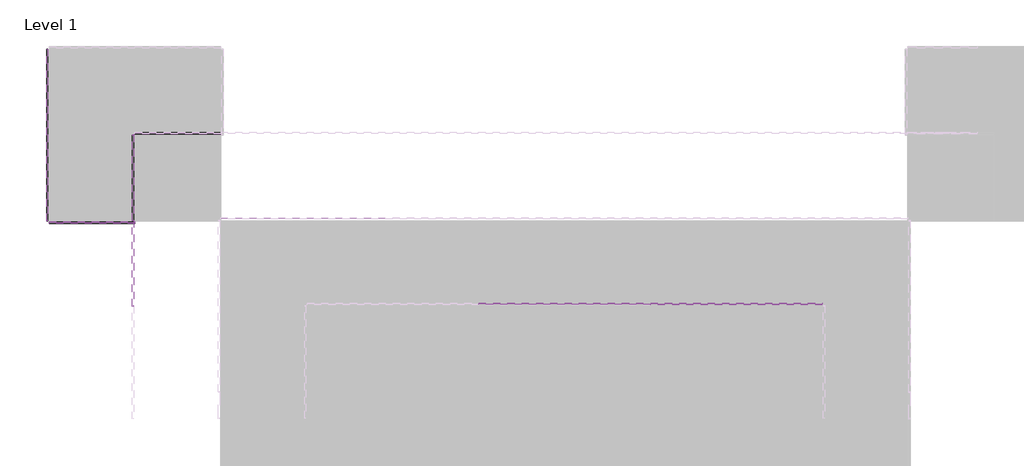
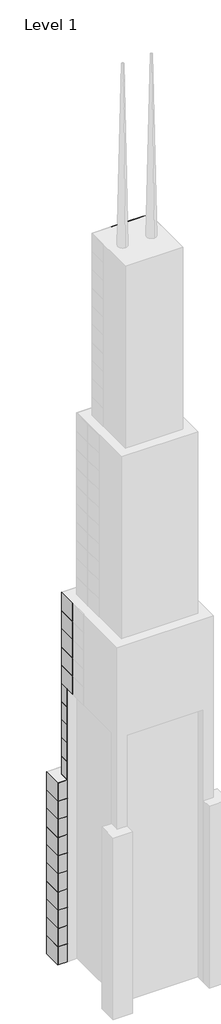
# One storey, part 12 of 15: 138 plates.
"""IFC4 building model written with IfcOpenShell, lengths in millimetres."""

from ifc_helpers import new_model, si_unit, origin, place, context, project, spatial, transform, mapped, element, save
from components import system_panel_glazed_9c75bc08, system_panel_glazed_0a0842ec, system_panel_glazed_aa64d645

model = new_model("IFC4")

# Units and contexts
model_context = context("Model", 3, world=origin())
ifc_project = project(units=[si_unit("LENGTHUNIT", "METRE", prefix="MILLI")], contexts=[model_context])

# Site, building, storey
site = spatial("IfcSite", under=ifc_project)
building = spatial("IfcBuilding", under=site)
storey = spatial("IfcBuildingStorey", under=building, Name="Level 1", Elevation=0.0)

# Plates
placement = place(None, origin())
system_panel_glazed_shape = system_panel_glazed_9c75bc08(model_context)
element("IfcPlate", 1, ObjectType="System Panel : Glazed", at=placement, inside=storey, context=model_context, shape_type="MappedRepresentation", body=[
    mapped(system_panel_glazed_shape, transform((36594.2903978, 9113.0904402, 0.0), x_axis=(0.0, -1.0, 0.0), y_axis=(1.0, 0.0, 0.0), z_axis=(0.0, 0.0, 1.0))),
])
element("IfcPlate", 2, ObjectType="System Panel : Glazed", at=placement, inside=storey, context=model_context, shape_type="MappedRepresentation", body=[
    mapped(system_panel_glazed_shape, transform((36594.2903978, 9113.0904402, 3048.0), x_axis=(0.0, -1.0, 0.0), y_axis=(1.0, 0.0, 0.0), z_axis=(0.0, 0.0, 1.0))),
])
element("IfcPlate", 3, ObjectType="System Panel : Glazed", at=placement, inside=storey, context=model_context, shape_type="MappedRepresentation", body=[
    mapped(system_panel_glazed_shape, transform((36594.2903978, 9113.0904402, 6096.0), x_axis=(0.0, -1.0, 0.0), y_axis=(1.0, 0.0, 0.0), z_axis=(0.0, 0.0, 1.0))),
])
element("IfcPlate", 4, ObjectType="System Panel : Glazed", at=placement, inside=storey, context=model_context, shape_type="MappedRepresentation", body=[
    mapped(system_panel_glazed_shape, transform((36594.2903978, 9113.0904402, 9144.0), x_axis=(0.0, -1.0, 0.0), y_axis=(1.0, 0.0, 0.0), z_axis=(0.0, 0.0, 1.0))),
])
element("IfcPlate", 5, ObjectType="System Panel : Glazed", at=placement, inside=storey, context=model_context, shape_type="MappedRepresentation", body=[
    mapped(system_panel_glazed_shape, transform((36594.2903978, 9113.0904402, 12192.0), x_axis=(0.0, -1.0, 0.0), y_axis=(1.0, 0.0, 0.0), z_axis=(0.0, 0.0, 1.0))),
])
element("IfcPlate", 6, ObjectType="System Panel : Glazed", at=placement, inside=storey, context=model_context, shape_type="MappedRepresentation", body=[
    mapped(system_panel_glazed_shape, transform((36594.2903978, 9113.0904402, 15240.0), x_axis=(0.0, -1.0, 0.0), y_axis=(1.0, 0.0, 0.0), z_axis=(0.0, 0.0, 1.0))),
])
element("IfcPlate", 7, ObjectType="System Panel : Glazed", at=placement, inside=storey, context=model_context, shape_type="MappedRepresentation", body=[
    mapped(system_panel_glazed_shape, transform((36594.2903978, 9113.0904402, 18288.0), x_axis=(0.0, -1.0, 0.0), y_axis=(1.0, 0.0, 0.0), z_axis=(0.0, 0.0, 1.0))),
])
element("IfcPlate", 8, ObjectType="System Panel : Glazed", at=placement, inside=storey, context=model_context, shape_type="MappedRepresentation", body=[
    mapped(system_panel_glazed_shape, transform((36594.2903978, 9113.0904402, 21336.0), x_axis=(0.0, -1.0, 0.0), y_axis=(1.0, 0.0, 0.0), z_axis=(0.0, 0.0, 1.0))),
])
element("IfcPlate", 9, ObjectType="System Panel : Glazed", at=placement, inside=storey, context=model_context, shape_type="MappedRepresentation", body=[
    mapped(system_panel_glazed_shape, transform((36594.2903978, 9113.0904402, 24384.0), x_axis=(0.0, -1.0, 0.0), y_axis=(1.0, 0.0, 0.0), z_axis=(0.0, 0.0, 1.0))),
])
element("IfcPlate", 10, ObjectType="System Panel : Glazed", at=placement, inside=storey, context=model_context, shape_type="MappedRepresentation", body=[
    mapped(system_panel_glazed_shape, transform((36594.2903978, 9113.0904402, 27432.0), x_axis=(0.0, -1.0, 0.0), y_axis=(1.0, 0.0, 0.0), z_axis=(0.0, 0.0, 1.0))),
])
element("IfcPlate", 11, ObjectType="System Panel : Glazed", at=placement, inside=storey, context=model_context, shape_type="MappedRepresentation", body=[
    mapped(system_panel_glazed_shape, transform((36594.2903978, 9113.0904402, 30480.0), x_axis=(0.0, -1.0, 0.0), y_axis=(1.0, 0.0, 0.0), z_axis=(0.0, 0.0, 1.0))),
])
element("IfcPlate", 12, ObjectType="System Panel : Glazed", at=placement, inside=storey, context=model_context, shape_type="MappedRepresentation", body=[
    mapped(system_panel_glazed_shape, transform((36594.2903978, 9113.0904402, 33528.0), x_axis=(0.0, -1.0, 0.0), y_axis=(1.0, 0.0, 0.0), z_axis=(0.0, 0.0, 1.0))),
])
element("IfcPlate", 13, ObjectType="System Panel : Glazed", at=placement, inside=storey, context=model_context, shape_type="MappedRepresentation", body=[
    mapped(system_panel_glazed_shape, transform((36594.2903978, 9113.0904402, 36576.0), x_axis=(0.0, -1.0, 0.0), y_axis=(1.0, 0.0, 0.0), z_axis=(0.0, 0.0, 1.0))),
])
element("IfcPlate", 14, ObjectType="System Panel : Glazed", at=placement, inside=storey, context=model_context, shape_type="MappedRepresentation", body=[
    mapped(system_panel_glazed_shape, transform((36594.2903978, 9113.0904402, 39624.0), x_axis=(0.0, -1.0, 0.0), y_axis=(1.0, 0.0, 0.0), z_axis=(0.0, 0.0, 1.0))),
])
element("IfcPlate", 15, ObjectType="System Panel : Glazed", at=placement, inside=storey, context=model_context, shape_type="MappedRepresentation", body=[
    mapped(system_panel_glazed_shape, transform((36594.2903978, 9113.0904402, 42672.0), x_axis=(0.0, -1.0, 0.0), y_axis=(1.0, 0.0, 0.0), z_axis=(0.0, 0.0, 1.0))),
])
element("IfcPlate", 16, ObjectType="System Panel : Glazed", at=placement, inside=storey, context=model_context, shape_type="MappedRepresentation", body=[
    mapped(system_panel_glazed_shape, transform((37356.2903978, 9875.0904402, 0.0), x_axis=(-1.0, 0.0, 0.0), y_axis=(0.0, -1.0, 0.0), z_axis=(0.0, 0.0, 1.0))),
])
element("IfcPlate", 17, ObjectType="System Panel : Glazed", at=placement, inside=storey, context=model_context, shape_type="MappedRepresentation", body=[
    mapped(system_panel_glazed_shape, transform((37356.2903978, 9875.0904402, 3048.0), x_axis=(-1.0, 0.0, 0.0), y_axis=(0.0, -1.0, 0.0), z_axis=(0.0, 0.0, 1.0))),
])
element("IfcPlate", 18, ObjectType="System Panel : Glazed", at=placement, inside=storey, context=model_context, shape_type="MappedRepresentation", body=[
    mapped(system_panel_glazed_shape, transform((37356.2903978, 9875.0904402, 6096.0), x_axis=(-1.0, 0.0, 0.0), y_axis=(0.0, -1.0, 0.0), z_axis=(0.0, 0.0, 1.0))),
])
element("IfcPlate", 19, ObjectType="System Panel : Glazed", at=placement, inside=storey, context=model_context, shape_type="MappedRepresentation", body=[
    mapped(system_panel_glazed_shape, transform((37356.2903978, 9875.0904402, 9144.0), x_axis=(-1.0, 0.0, 0.0), y_axis=(0.0, -1.0, 0.0), z_axis=(0.0, 0.0, 1.0))),
])
element("IfcPlate", 20, ObjectType="System Panel : Glazed", at=placement, inside=storey, context=model_context, shape_type="MappedRepresentation", body=[
    mapped(system_panel_glazed_shape, transform((37356.2903978, 9875.0904402, 12192.0), x_axis=(-1.0, 0.0, 0.0), y_axis=(0.0, -1.0, 0.0), z_axis=(0.0, 0.0, 1.0))),
])
element("IfcPlate", 21, ObjectType="System Panel : Glazed", at=placement, inside=storey, context=model_context, shape_type="MappedRepresentation", body=[
    mapped(system_panel_glazed_shape, transform((37356.2903978, 9875.0904402, 15240.0), x_axis=(-1.0, 0.0, 0.0), y_axis=(0.0, -1.0, 0.0), z_axis=(0.0, 0.0, 1.0))),
])
element("IfcPlate", 22, ObjectType="System Panel : Glazed", at=placement, inside=storey, context=model_context, shape_type="MappedRepresentation", body=[
    mapped(system_panel_glazed_shape, transform((37356.2903978, 9875.0904402, 18288.0), x_axis=(-1.0, 0.0, 0.0), y_axis=(0.0, -1.0, 0.0), z_axis=(0.0, 0.0, 1.0))),
])
element("IfcPlate", 23, ObjectType="System Panel : Glazed", at=placement, inside=storey, context=model_context, shape_type="MappedRepresentation", body=[
    mapped(system_panel_glazed_shape, transform((37356.2903978, 9875.0904402, 21336.0), x_axis=(-1.0, 0.0, 0.0), y_axis=(0.0, -1.0, 0.0), z_axis=(0.0, 0.0, 1.0))),
])
element("IfcPlate", 24, ObjectType="System Panel : Glazed", at=placement, inside=storey, context=model_context, shape_type="MappedRepresentation", body=[
    mapped(system_panel_glazed_shape, transform((37356.2903978, 9875.0904402, 24384.0), x_axis=(-1.0, 0.0, 0.0), y_axis=(0.0, -1.0, 0.0), z_axis=(0.0, 0.0, 1.0))),
])
element("IfcPlate", 25, ObjectType="System Panel : Glazed", at=placement, inside=storey, context=model_context, shape_type="MappedRepresentation", body=[
    mapped(system_panel_glazed_shape, transform((37356.2903978, 9875.0904402, 27432.0), x_axis=(-1.0, 0.0, 0.0), y_axis=(0.0, -1.0, 0.0), z_axis=(0.0, 0.0, 1.0))),
])
element("IfcPlate", 26, ObjectType="System Panel : Glazed", at=placement, inside=storey, context=model_context, shape_type="MappedRepresentation", body=[
    mapped(system_panel_glazed_shape, transform((37356.2903978, 9875.0904402, 30480.0), x_axis=(-1.0, 0.0, 0.0), y_axis=(0.0, -1.0, 0.0), z_axis=(0.0, 0.0, 1.0))),
])
element("IfcPlate", 27, ObjectType="System Panel : Glazed", at=placement, inside=storey, context=model_context, shape_type="MappedRepresentation", body=[
    mapped(system_panel_glazed_shape, transform((37356.2903978, 9875.0904402, 33528.0), x_axis=(-1.0, 0.0, 0.0), y_axis=(0.0, -1.0, 0.0), z_axis=(0.0, 0.0, 1.0))),
])
element("IfcPlate", 28, ObjectType="System Panel : Glazed", at=placement, inside=storey, context=model_context, shape_type="MappedRepresentation", body=[
    mapped(system_panel_glazed_shape, transform((37356.2903978, 9875.0904402, 36576.0), x_axis=(-1.0, 0.0, 0.0), y_axis=(0.0, -1.0, 0.0), z_axis=(0.0, 0.0, 1.0))),
])
element("IfcPlate", 29, ObjectType="System Panel : Glazed", at=placement, inside=storey, context=model_context, shape_type="MappedRepresentation", body=[
    mapped(system_panel_glazed_shape, transform((37356.2903978, 9875.0904402, 39624.0), x_axis=(-1.0, 0.0, 0.0), y_axis=(0.0, -1.0, 0.0), z_axis=(0.0, 0.0, 1.0))),
])
element("IfcPlate", 30, ObjectType="System Panel : Glazed", at=placement, inside=storey, context=model_context, shape_type="MappedRepresentation", body=[
    mapped(system_panel_glazed_shape, transform((37356.2903978, 9875.0904402, 42672.0), x_axis=(-1.0, 0.0, 0.0), y_axis=(0.0, -1.0, 0.0), z_axis=(0.0, 0.0, 1.0))),
])
element("IfcPlate", 31, ObjectType="System Panel : Glazed", at=placement, inside=storey, context=model_context, shape_type="MappedRepresentation", body=[
    mapped(system_panel_glazed_shape, transform((37356.2903978, 9875.0904402, 0.0), x_axis=(-1.0, 0.0, 0.0), y_axis=(0.0, -1.0, 0.0), z_axis=(0.0, 0.0, 1.0))),
])
element("IfcPlate", 32, ObjectType="System Panel : Glazed", at=placement, inside=storey, context=model_context, shape_type="MappedRepresentation", body=[
    mapped(system_panel_glazed_shape, transform((37356.2903978, 9875.0904402, 3048.0), x_axis=(-1.0, 0.0, 0.0), y_axis=(0.0, -1.0, 0.0), z_axis=(0.0, 0.0, 1.0))),
])
element("IfcPlate", 33, ObjectType="System Panel : Glazed", at=placement, inside=storey, context=model_context, shape_type="MappedRepresentation", body=[
    mapped(system_panel_glazed_shape, transform((37356.2903978, 9875.0904402, 6096.0), x_axis=(-1.0, 0.0, 0.0), y_axis=(0.0, -1.0, 0.0), z_axis=(0.0, 0.0, 1.0))),
])
element("IfcPlate", 34, ObjectType="System Panel : Glazed", at=placement, inside=storey, context=model_context, shape_type="MappedRepresentation", body=[
    mapped(system_panel_glazed_shape, transform((37356.2903978, 9875.0904402, 9144.0), x_axis=(-1.0, 0.0, 0.0), y_axis=(0.0, -1.0, 0.0), z_axis=(0.0, 0.0, 1.0))),
])
element("IfcPlate", 35, ObjectType="System Panel : Glazed", at=placement, inside=storey, context=model_context, shape_type="MappedRepresentation", body=[
    mapped(system_panel_glazed_shape, transform((37356.2903978, 9875.0904402, 12192.0), x_axis=(-1.0, 0.0, 0.0), y_axis=(0.0, -1.0, 0.0), z_axis=(0.0, 0.0, 1.0))),
])
element("IfcPlate", 36, ObjectType="System Panel : Glazed", at=placement, inside=storey, context=model_context, shape_type="MappedRepresentation", body=[
    mapped(system_panel_glazed_shape, transform((37356.2903978, 9875.0904402, 15240.0), x_axis=(-1.0, 0.0, 0.0), y_axis=(0.0, -1.0, 0.0), z_axis=(0.0, 0.0, 1.0))),
])
element("IfcPlate", 37, ObjectType="System Panel : Glazed", at=placement, inside=storey, context=model_context, shape_type="MappedRepresentation", body=[
    mapped(system_panel_glazed_shape, transform((37356.2903978, 9875.0904402, 18288.0), x_axis=(-1.0, 0.0, 0.0), y_axis=(0.0, -1.0, 0.0), z_axis=(0.0, 0.0, 1.0))),
])
element("IfcPlate", 38, ObjectType="System Panel : Glazed", at=placement, inside=storey, context=model_context, shape_type="MappedRepresentation", body=[
    mapped(system_panel_glazed_shape, transform((37356.2903978, 9875.0904402, 21336.0), x_axis=(-1.0, 0.0, 0.0), y_axis=(0.0, -1.0, 0.0), z_axis=(0.0, 0.0, 1.0))),
])
element("IfcPlate", 39, ObjectType="System Panel : Glazed", at=placement, inside=storey, context=model_context, shape_type="MappedRepresentation", body=[
    mapped(system_panel_glazed_shape, transform((37356.2903978, 9875.0904402, 24384.0), x_axis=(-1.0, 0.0, 0.0), y_axis=(0.0, -1.0, 0.0), z_axis=(0.0, 0.0, 1.0))),
])
element("IfcPlate", 40, ObjectType="System Panel : Glazed", at=placement, inside=storey, context=model_context, shape_type="MappedRepresentation", body=[
    mapped(system_panel_glazed_shape, transform((37356.2903978, 9875.0904402, 27432.0), x_axis=(-1.0, 0.0, 0.0), y_axis=(0.0, -1.0, 0.0), z_axis=(0.0, 0.0, 1.0))),
])
element("IfcPlate", 41, ObjectType="System Panel : Glazed", at=placement, inside=storey, context=model_context, shape_type="MappedRepresentation", body=[
    mapped(system_panel_glazed_shape, transform((37356.2903978, 9875.0904402, 30480.0), x_axis=(-1.0, 0.0, 0.0), y_axis=(0.0, -1.0, 0.0), z_axis=(0.0, 0.0, 1.0))),
])
element("IfcPlate", 42, ObjectType="System Panel : Glazed", at=placement, inside=storey, context=model_context, shape_type="MappedRepresentation", body=[
    mapped(system_panel_glazed_shape, transform((37356.2903978, 9875.0904402, 33528.0), x_axis=(-1.0, 0.0, 0.0), y_axis=(0.0, -1.0, 0.0), z_axis=(0.0, 0.0, 1.0))),
])
element("IfcPlate", 43, ObjectType="System Panel : Glazed", at=placement, inside=storey, context=model_context, shape_type="MappedRepresentation", body=[
    mapped(system_panel_glazed_shape, transform((37356.2903978, 9875.0904402, 36576.0), x_axis=(-1.0, 0.0, 0.0), y_axis=(0.0, -1.0, 0.0), z_axis=(0.0, 0.0, 1.0))),
])
element("IfcPlate", 44, ObjectType="System Panel : Glazed", at=placement, inside=storey, context=model_context, shape_type="MappedRepresentation", body=[
    mapped(system_panel_glazed_shape, transform((37356.2903978, 9875.0904402, 39624.0), x_axis=(-1.0, 0.0, 0.0), y_axis=(0.0, -1.0, 0.0), z_axis=(0.0, 0.0, 1.0))),
])
element("IfcPlate", 45, ObjectType="System Panel : Glazed", at=placement, inside=storey, context=model_context, shape_type="MappedRepresentation", body=[
    mapped(system_panel_glazed_shape, transform((37356.2903978, 9875.0904402, 42672.0), x_axis=(-1.0, 0.0, 0.0), y_axis=(0.0, -1.0, 0.0), z_axis=(0.0, 0.0, 1.0))),
])
element("IfcPlate", 46, ObjectType="System Panel : Glazed", at=placement, inside=storey, context=model_context, shape_type="MappedRepresentation", body=[
    mapped(system_panel_glazed_shape, transform((36594.2903978, 9113.0904402, 0.0), x_axis=(0.0, -1.0, 0.0), y_axis=(1.0, 0.0, 0.0), z_axis=(0.0, 0.0, 1.0))),
])
element("IfcPlate", 47, ObjectType="System Panel : Glazed", at=placement, inside=storey, context=model_context, shape_type="MappedRepresentation", body=[
    mapped(system_panel_glazed_shape, transform((36594.2903978, 9113.0904402, 3048.0), x_axis=(0.0, -1.0, 0.0), y_axis=(1.0, 0.0, 0.0), z_axis=(0.0, 0.0, 1.0))),
])
element("IfcPlate", 48, ObjectType="System Panel : Glazed", at=placement, inside=storey, context=model_context, shape_type="MappedRepresentation", body=[
    mapped(system_panel_glazed_shape, transform((36594.2903978, 9113.0904402, 6096.0), x_axis=(0.0, -1.0, 0.0), y_axis=(1.0, 0.0, 0.0), z_axis=(0.0, 0.0, 1.0))),
])
element("IfcPlate", 49, ObjectType="System Panel : Glazed", at=placement, inside=storey, context=model_context, shape_type="MappedRepresentation", body=[
    mapped(system_panel_glazed_shape, transform((36594.2903978, 9113.0904402, 9144.0), x_axis=(0.0, -1.0, 0.0), y_axis=(1.0, 0.0, 0.0), z_axis=(0.0, 0.0, 1.0))),
])
element("IfcPlate", 50, ObjectType="System Panel : Glazed", at=placement, inside=storey, context=model_context, shape_type="MappedRepresentation", body=[
    mapped(system_panel_glazed_shape, transform((36594.2903978, 9113.0904402, 12192.0), x_axis=(0.0, -1.0, 0.0), y_axis=(1.0, 0.0, 0.0), z_axis=(0.0, 0.0, 1.0))),
])
element("IfcPlate", 51, ObjectType="System Panel : Glazed", at=placement, inside=storey, context=model_context, shape_type="MappedRepresentation", body=[
    mapped(system_panel_glazed_shape, transform((36594.2903978, 9113.0904402, 15240.0), x_axis=(0.0, -1.0, 0.0), y_axis=(1.0, 0.0, 0.0), z_axis=(0.0, 0.0, 1.0))),
])
element("IfcPlate", 52, ObjectType="System Panel : Glazed", at=placement, inside=storey, context=model_context, shape_type="MappedRepresentation", body=[
    mapped(system_panel_glazed_shape, transform((36594.2903978, 9113.0904402, 18288.0), x_axis=(0.0, -1.0, 0.0), y_axis=(1.0, 0.0, 0.0), z_axis=(0.0, 0.0, 1.0))),
])
element("IfcPlate", 53, ObjectType="System Panel : Glazed", at=placement, inside=storey, context=model_context, shape_type="MappedRepresentation", body=[
    mapped(system_panel_glazed_shape, transform((36594.2903978, 9113.0904402, 21336.0), x_axis=(0.0, -1.0, 0.0), y_axis=(1.0, 0.0, 0.0), z_axis=(0.0, 0.0, 1.0))),
])
element("IfcPlate", 54, ObjectType="System Panel : Glazed", at=placement, inside=storey, context=model_context, shape_type="MappedRepresentation", body=[
    mapped(system_panel_glazed_shape, transform((36594.2903978, 9113.0904402, 24384.0), x_axis=(0.0, -1.0, 0.0), y_axis=(1.0, 0.0, 0.0), z_axis=(0.0, 0.0, 1.0))),
])
element("IfcPlate", 55, ObjectType="System Panel : Glazed", at=placement, inside=storey, context=model_context, shape_type="MappedRepresentation", body=[
    mapped(system_panel_glazed_shape, transform((36594.2903978, 9113.0904402, 27432.0), x_axis=(0.0, -1.0, 0.0), y_axis=(1.0, 0.0, 0.0), z_axis=(0.0, 0.0, 1.0))),
])
element("IfcPlate", 56, ObjectType="System Panel : Glazed", at=placement, inside=storey, context=model_context, shape_type="MappedRepresentation", body=[
    mapped(system_panel_glazed_shape, transform((36594.2903978, 9113.0904402, 30480.0), x_axis=(0.0, -1.0, 0.0), y_axis=(1.0, 0.0, 0.0), z_axis=(0.0, 0.0, 1.0))),
])
element("IfcPlate", 57, ObjectType="System Panel : Glazed", at=placement, inside=storey, context=model_context, shape_type="MappedRepresentation", body=[
    mapped(system_panel_glazed_shape, transform((36594.2903978, 9113.0904402, 33528.0), x_axis=(0.0, -1.0, 0.0), y_axis=(1.0, 0.0, 0.0), z_axis=(0.0, 0.0, 1.0))),
])
element("IfcPlate", 58, ObjectType="System Panel : Glazed", at=placement, inside=storey, context=model_context, shape_type="MappedRepresentation", body=[
    mapped(system_panel_glazed_shape, transform((36594.2903978, 9113.0904402, 36576.0), x_axis=(0.0, -1.0, 0.0), y_axis=(1.0, 0.0, 0.0), z_axis=(0.0, 0.0, 1.0))),
])
element("IfcPlate", 59, ObjectType="System Panel : Glazed", at=placement, inside=storey, context=model_context, shape_type="MappedRepresentation", body=[
    mapped(system_panel_glazed_shape, transform((36594.2903978, 9113.0904402, 39624.0), x_axis=(0.0, -1.0, 0.0), y_axis=(1.0, 0.0, 0.0), z_axis=(0.0, 0.0, 1.0))),
])
element("IfcPlate", 60, ObjectType="System Panel : Glazed", at=placement, inside=storey, context=model_context, shape_type="MappedRepresentation", body=[
    mapped(system_panel_glazed_shape, transform((36594.2903978, 9113.0904402, 42672.0), x_axis=(0.0, -1.0, 0.0), y_axis=(1.0, 0.0, 0.0), z_axis=(0.0, 0.0, 1.0))),
])
element("IfcPlate", 61, ObjectType="System Panel : Glazed", at=placement, inside=storey, context=model_context, shape_type="MappedRepresentation", body=[
    mapped(system_panel_glazed_shape, transform((37356.2903978, 9875.0904402, 0.0), x_axis=(-1.0, 0.0, 0.0), y_axis=(0.0, -1.0, 0.0), z_axis=(0.0, 0.0, 1.0))),
])
element("IfcPlate", 62, ObjectType="System Panel : Glazed", at=placement, inside=storey, context=model_context, shape_type="MappedRepresentation", body=[
    mapped(system_panel_glazed_shape, transform((37356.2903978, 9875.0904402, 3048.0), x_axis=(-1.0, 0.0, 0.0), y_axis=(0.0, -1.0, 0.0), z_axis=(0.0, 0.0, 1.0))),
])
element("IfcPlate", 63, ObjectType="System Panel : Glazed", at=placement, inside=storey, context=model_context, shape_type="MappedRepresentation", body=[
    mapped(system_panel_glazed_shape, transform((37356.2903978, 9875.0904402, 6096.0), x_axis=(-1.0, 0.0, 0.0), y_axis=(0.0, -1.0, 0.0), z_axis=(0.0, 0.0, 1.0))),
])
element("IfcPlate", 64, ObjectType="System Panel : Glazed", at=placement, inside=storey, context=model_context, shape_type="MappedRepresentation", body=[
    mapped(system_panel_glazed_shape, transform((37356.2903978, 9875.0904402, 9144.0), x_axis=(-1.0, 0.0, 0.0), y_axis=(0.0, -1.0, 0.0), z_axis=(0.0, 0.0, 1.0))),
])
element("IfcPlate", 65, ObjectType="System Panel : Glazed", at=placement, inside=storey, context=model_context, shape_type="MappedRepresentation", body=[
    mapped(system_panel_glazed_shape, transform((37356.2903978, 9875.0904402, 12192.0), x_axis=(-1.0, 0.0, 0.0), y_axis=(0.0, -1.0, 0.0), z_axis=(0.0, 0.0, 1.0))),
])
element("IfcPlate", 66, ObjectType="System Panel : Glazed", at=placement, inside=storey, context=model_context, shape_type="MappedRepresentation", body=[
    mapped(system_panel_glazed_shape, transform((37356.2903978, 9875.0904402, 15240.0), x_axis=(-1.0, 0.0, 0.0), y_axis=(0.0, -1.0, 0.0), z_axis=(0.0, 0.0, 1.0))),
])
element("IfcPlate", 67, ObjectType="System Panel : Glazed", at=placement, inside=storey, context=model_context, shape_type="MappedRepresentation", body=[
    mapped(system_panel_glazed_shape, transform((37356.2903978, 9875.0904402, 18288.0), x_axis=(-1.0, 0.0, 0.0), y_axis=(0.0, -1.0, 0.0), z_axis=(0.0, 0.0, 1.0))),
])
element("IfcPlate", 68, ObjectType="System Panel : Glazed", at=placement, inside=storey, context=model_context, shape_type="MappedRepresentation", body=[
    mapped(system_panel_glazed_shape, transform((37356.2903978, 9875.0904402, 21336.0), x_axis=(-1.0, 0.0, 0.0), y_axis=(0.0, -1.0, 0.0), z_axis=(0.0, 0.0, 1.0))),
])
element("IfcPlate", 69, ObjectType="System Panel : Glazed", at=placement, inside=storey, context=model_context, shape_type="MappedRepresentation", body=[
    mapped(system_panel_glazed_shape, transform((37356.2903978, 9875.0904402, 24384.0), x_axis=(-1.0, 0.0, 0.0), y_axis=(0.0, -1.0, 0.0), z_axis=(0.0, 0.0, 1.0))),
])
element("IfcPlate", 70, ObjectType="System Panel : Glazed", at=placement, inside=storey, context=model_context, shape_type="MappedRepresentation", body=[
    mapped(system_panel_glazed_shape, transform((37356.2903978, 9875.0904402, 27432.0), x_axis=(-1.0, 0.0, 0.0), y_axis=(0.0, -1.0, 0.0), z_axis=(0.0, 0.0, 1.0))),
])
element("IfcPlate", 71, ObjectType="System Panel : Glazed", at=placement, inside=storey, context=model_context, shape_type="MappedRepresentation", body=[
    mapped(system_panel_glazed_shape, transform((37356.2903978, 9875.0904402, 30480.0), x_axis=(-1.0, 0.0, 0.0), y_axis=(0.0, -1.0, 0.0), z_axis=(0.0, 0.0, 1.0))),
])
element("IfcPlate", 72, ObjectType="System Panel : Glazed", at=placement, inside=storey, context=model_context, shape_type="MappedRepresentation", body=[
    mapped(system_panel_glazed_shape, transform((37356.2903978, 9875.0904402, 33528.0), x_axis=(-1.0, 0.0, 0.0), y_axis=(0.0, -1.0, 0.0), z_axis=(0.0, 0.0, 1.0))),
])
element("IfcPlate", 73, ObjectType="System Panel : Glazed", at=placement, inside=storey, context=model_context, shape_type="MappedRepresentation", body=[
    mapped(system_panel_glazed_shape, transform((37356.2903978, 9875.0904402, 36576.0), x_axis=(-1.0, 0.0, 0.0), y_axis=(0.0, -1.0, 0.0), z_axis=(0.0, 0.0, 1.0))),
])
element("IfcPlate", 74, ObjectType="System Panel : Glazed", at=placement, inside=storey, context=model_context, shape_type="MappedRepresentation", body=[
    mapped(system_panel_glazed_shape, transform((37356.2903978, 9875.0904402, 39624.0), x_axis=(-1.0, 0.0, 0.0), y_axis=(0.0, -1.0, 0.0), z_axis=(0.0, 0.0, 1.0))),
])
element("IfcPlate", 75, ObjectType="System Panel : Glazed", at=placement, inside=storey, context=model_context, shape_type="MappedRepresentation", body=[
    mapped(system_panel_glazed_shape, transform((37356.2903978, 9875.0904402, 42672.0), x_axis=(-1.0, 0.0, 0.0), y_axis=(0.0, -1.0, 0.0), z_axis=(0.0, 0.0, 1.0))),
])
element("IfcPlate", 76, ObjectType="System Panel : Glazed", at=placement, inside=storey, context=model_context, shape_type="MappedRepresentation", body=[
    mapped(system_panel_glazed_shape, transform((35832.2903978, 8351.0904402, 0.0), x_axis=(1.0, 0.0, 0.0), y_axis=(0.0, 1.0, 0.0), z_axis=(0.0, 0.0, 1.0))),
])
element("IfcPlate", 77, ObjectType="System Panel : Glazed", at=placement, inside=storey, context=model_context, shape_type="MappedRepresentation", body=[
    mapped(system_panel_glazed_shape, transform((35832.2903978, 8351.0904402, 3048.0), x_axis=(1.0, 0.0, 0.0), y_axis=(0.0, 1.0, 0.0), z_axis=(0.0, 0.0, 1.0))),
])
element("IfcPlate", 78, ObjectType="System Panel : Glazed", at=placement, inside=storey, context=model_context, shape_type="MappedRepresentation", body=[
    mapped(system_panel_glazed_shape, transform((35832.2903978, 8351.0904402, 6096.0), x_axis=(1.0, 0.0, 0.0), y_axis=(0.0, 1.0, 0.0), z_axis=(0.0, 0.0, 1.0))),
])
element("IfcPlate", 79, ObjectType="System Panel : Glazed", at=placement, inside=storey, context=model_context, shape_type="MappedRepresentation", body=[
    mapped(system_panel_glazed_shape, transform((35832.2903978, 8351.0904402, 9144.0), x_axis=(1.0, 0.0, 0.0), y_axis=(0.0, 1.0, 0.0), z_axis=(0.0, 0.0, 1.0))),
])
element("IfcPlate", 80, ObjectType="System Panel : Glazed", at=placement, inside=storey, context=model_context, shape_type="MappedRepresentation", body=[
    mapped(system_panel_glazed_shape, transform((35832.2903978, 8351.0904402, 12192.0), x_axis=(1.0, 0.0, 0.0), y_axis=(0.0, 1.0, 0.0), z_axis=(0.0, 0.0, 1.0))),
])
element("IfcPlate", 81, ObjectType="System Panel : Glazed", at=placement, inside=storey, context=model_context, shape_type="MappedRepresentation", body=[
    mapped(system_panel_glazed_shape, transform((35832.2903978, 8351.0904402, 15240.0), x_axis=(1.0, 0.0, 0.0), y_axis=(0.0, 1.0, 0.0), z_axis=(0.0, 0.0, 1.0))),
])
element("IfcPlate", 82, ObjectType="System Panel : Glazed", at=placement, inside=storey, context=model_context, shape_type="MappedRepresentation", body=[
    mapped(system_panel_glazed_shape, transform((35832.2903978, 8351.0904402, 18288.0), x_axis=(1.0, 0.0, 0.0), y_axis=(0.0, 1.0, 0.0), z_axis=(0.0, 0.0, 1.0))),
])
element("IfcPlate", 83, ObjectType="System Panel : Glazed", at=placement, inside=storey, context=model_context, shape_type="MappedRepresentation", body=[
    mapped(system_panel_glazed_shape, transform((35832.2903978, 8351.0904402, 21336.0), x_axis=(1.0, 0.0, 0.0), y_axis=(0.0, 1.0, 0.0), z_axis=(0.0, 0.0, 1.0))),
])
element("IfcPlate", 84, ObjectType="System Panel : Glazed", at=placement, inside=storey, context=model_context, shape_type="MappedRepresentation", body=[
    mapped(system_panel_glazed_shape, transform((35832.2903978, 8351.0904402, 24384.0), x_axis=(1.0, 0.0, 0.0), y_axis=(0.0, 1.0, 0.0), z_axis=(0.0, 0.0, 1.0))),
])
element("IfcPlate", 85, ObjectType="System Panel : Glazed", at=placement, inside=storey, context=model_context, shape_type="MappedRepresentation", body=[
    mapped(system_panel_glazed_shape, transform((35832.2903978, 8351.0904402, 27432.0), x_axis=(1.0, 0.0, 0.0), y_axis=(0.0, 1.0, 0.0), z_axis=(0.0, 0.0, 1.0))),
])
system_panel_glazed_2_shape = system_panel_glazed_0a0842ec(model_context)
element("IfcPlate", 86, ObjectType="System Panel : Glazed", at=placement, inside=storey, context=model_context, shape_type="MappedRepresentation", body=[
    mapped(system_panel_glazed_2_shape, transform((36594.2903978, 8351.0904402, 45720.0), x_axis=(0.0, -1.0, 0.0), y_axis=(1.0, 0.0, 0.0), z_axis=(0.0, 0.0, 1.0))),
])
element("IfcPlate", 87, ObjectType="System Panel : Glazed", at=placement, inside=storey, context=model_context, shape_type="MappedRepresentation", body=[
    mapped(system_panel_glazed_2_shape, transform((36594.2903978, 8351.0904402, 45720.0), x_axis=(0.0, -1.0, 0.0), y_axis=(1.0, 0.0, 0.0), z_axis=(0.0, 0.0, 1.0))),
])
system_panel_glazed_3_shape = system_panel_glazed_aa64d645(model_context)
element("IfcPlate", 88, ObjectType="System Panel : Glazed", at=placement, inside=storey, context=model_context, shape_type="MappedRepresentation", body=[
    mapped(system_panel_glazed_3_shape, transform((36594.2903978, 8351.0904402, 48768.0), x_axis=(0.0, -1.0, 0.0), y_axis=(1.0, 0.0, 0.0), z_axis=(0.0, 0.0, 1.0))),
])
element("IfcPlate", 89, ObjectType="System Panel : Glazed", at=placement, inside=storey, context=model_context, shape_type="MappedRepresentation", body=[
    mapped(system_panel_glazed_3_shape, transform((36594.2903978, 8351.0904402, 51816.0), x_axis=(0.0, -1.0, 0.0), y_axis=(1.0, 0.0, 0.0), z_axis=(0.0, 0.0, 1.0))),
])
element("IfcPlate", 90, ObjectType="System Panel : Glazed", at=placement, inside=storey, context=model_context, shape_type="MappedRepresentation", body=[
    mapped(system_panel_glazed_3_shape, transform((36594.2903978, 8351.0904402, 54864.0), x_axis=(0.0, -1.0, 0.0), y_axis=(1.0, 0.0, 0.0), z_axis=(0.0, 0.0, 1.0))),
])
element("IfcPlate", 91, ObjectType="System Panel : Glazed", at=placement, inside=storey, context=model_context, shape_type="MappedRepresentation", body=[
    mapped(system_panel_glazed_3_shape, transform((36594.2903978, 8351.0904402, 57912.0), x_axis=(0.0, -1.0, 0.0), y_axis=(1.0, 0.0, 0.0), z_axis=(0.0, 0.0, 1.0))),
])
element("IfcPlate", 92, ObjectType="System Panel : Glazed", at=placement, inside=storey, context=model_context, shape_type="MappedRepresentation", body=[
    mapped(system_panel_glazed_3_shape, transform((39642.2903978, 8351.0904402, 60960.0), x_axis=(-1.0, 0.0, 0.0), y_axis=(0.0, -1.0, 0.0), z_axis=(0.0, 0.0, 1.0))),
])
element("IfcPlate", 93, ObjectType="System Panel : Glazed", at=placement, inside=storey, context=model_context, shape_type="MappedRepresentation", body=[
    mapped(system_panel_glazed_3_shape, transform((39642.2903978, 8351.0904402, 64008.0), x_axis=(-1.0, 0.0, 0.0), y_axis=(0.0, -1.0, 0.0), z_axis=(0.0, 0.0, 1.0))),
])
element("IfcPlate", 94, ObjectType="System Panel : Glazed", at=placement, inside=storey, context=model_context, shape_type="MappedRepresentation", body=[
    mapped(system_panel_glazed_3_shape, transform((39642.2903978, 8351.0904402, 67056.0), x_axis=(-1.0, 0.0, 0.0), y_axis=(0.0, -1.0, 0.0), z_axis=(0.0, 0.0, 1.0))),
])
element("IfcPlate", 95, ObjectType="System Panel : Glazed", at=placement, inside=storey, context=model_context, shape_type="MappedRepresentation", body=[
    mapped(system_panel_glazed_3_shape, transform((39642.2903978, 8351.0904402, 70104.0), x_axis=(-1.0, 0.0, 0.0), y_axis=(0.0, -1.0, 0.0), z_axis=(0.0, 0.0, 1.0))),
])
element("IfcPlate", 96, ObjectType="System Panel : Glazed", at=placement, inside=storey, context=model_context, shape_type="MappedRepresentation", body=[
    mapped(system_panel_glazed_3_shape, transform((39642.2903978, 8351.0904402, 73152.0), x_axis=(-1.0, 0.0, 0.0), y_axis=(0.0, -1.0, 0.0), z_axis=(0.0, 0.0, 1.0))),
])
element("IfcPlate", 97, ObjectType="System Panel : Glazed", at=placement, inside=storey, context=model_context, shape_type="MappedRepresentation", body=[
    mapped(system_panel_glazed_3_shape, transform((39642.2903978, 8351.0904402, 76200.0), x_axis=(-1.0, 0.0, 0.0), y_axis=(0.0, -1.0, 0.0), z_axis=(0.0, 0.0, 1.0))),
])
element("IfcPlate", 98, ObjectType="System Panel : Glazed", at=placement, inside=storey, context=model_context, shape_type="MappedRepresentation", body=[
    mapped(system_panel_glazed_3_shape, transform((47267.8576677, 6827.0904402, 91440.0), x_axis=(-1.0, 0.0, 0.0), y_axis=(0.0, -1.0, 0.0), z_axis=(0.0, 0.0, 1.0))),
])
element("IfcPlate", 99, ObjectType="System Panel : Glazed", at=placement, inside=storey, context=model_context, shape_type="MappedRepresentation", body=[
    mapped(system_panel_glazed_3_shape, transform((47267.8576677, 6827.0904402, 94488.0), x_axis=(-1.0, 0.0, 0.0), y_axis=(0.0, -1.0, 0.0), z_axis=(0.0, 0.0, 1.0))),
])
element("IfcPlate", 100, ObjectType="System Panel : Glazed", at=placement, inside=storey, context=model_context, shape_type="MappedRepresentation", body=[
    mapped(system_panel_glazed_3_shape, transform((47267.8576677, 6827.0904402, 97536.0), x_axis=(-1.0, 0.0, 0.0), y_axis=(0.0, -1.0, 0.0), z_axis=(0.0, 0.0, 1.0))),
])
element("IfcPlate", 101, ObjectType="System Panel : Glazed", at=placement, inside=storey, context=model_context, shape_type="MappedRepresentation", body=[
    mapped(system_panel_glazed_3_shape, transform((47267.8576677, 6827.0904402, 100584.0), x_axis=(-1.0, 0.0, 0.0), y_axis=(0.0, -1.0, 0.0), z_axis=(0.0, 0.0, 1.0))),
])
element("IfcPlate", 102, ObjectType="System Panel : Glazed", at=placement, inside=storey, context=model_context, shape_type="MappedRepresentation", body=[
    mapped(system_panel_glazed_3_shape, transform((44219.8576677, 6827.0904402, 100584.0), x_axis=(-1.0, 0.0, 0.0), y_axis=(0.0, -1.0, 0.0), z_axis=(0.0, 0.0, 1.0))),
])
element("IfcPlate", 103, ObjectType="System Panel : Glazed", at=placement, inside=storey, context=model_context, shape_type="MappedRepresentation", body=[
    mapped(system_panel_glazed_3_shape, transform((47267.8576677, 6827.0904402, 103632.0), x_axis=(-1.0, 0.0, 0.0), y_axis=(0.0, -1.0, 0.0), z_axis=(0.0, 0.0, 1.0))),
])
element("IfcPlate", 104, ObjectType="System Panel : Glazed", at=placement, inside=storey, context=model_context, shape_type="MappedRepresentation", body=[
    mapped(system_panel_glazed_3_shape, transform((44219.8576677, 6827.0904402, 103632.0), x_axis=(-1.0, 0.0, 0.0), y_axis=(0.0, -1.0, 0.0), z_axis=(0.0, 0.0, 1.0))),
])
element("IfcPlate", 105, ObjectType="System Panel : Glazed", at=placement, inside=storey, context=model_context, shape_type="MappedRepresentation", body=[
    mapped(system_panel_glazed_3_shape, transform((47267.8576677, 6827.0904402, 106680.0), x_axis=(-1.0, 0.0, 0.0), y_axis=(0.0, -1.0, 0.0), z_axis=(0.0, 0.0, 1.0))),
])
element("IfcPlate", 106, ObjectType="System Panel : Glazed", at=placement, inside=storey, context=model_context, shape_type="MappedRepresentation", body=[
    mapped(system_panel_glazed_3_shape, transform((44219.8576677, 6827.0904402, 106680.0), x_axis=(-1.0, 0.0, 0.0), y_axis=(0.0, -1.0, 0.0), z_axis=(0.0, 0.0, 1.0))),
])
element("IfcPlate", 107, ObjectType="System Panel : Glazed", at=placement, inside=storey, context=model_context, shape_type="MappedRepresentation", body=[
    mapped(system_panel_glazed_3_shape, transform((47267.8576677, 6827.0904402, 109728.0), x_axis=(-1.0, 0.0, 0.0), y_axis=(0.0, -1.0, 0.0), z_axis=(0.0, 0.0, 1.0))),
])
element("IfcPlate", 108, ObjectType="System Panel : Glazed", at=placement, inside=storey, context=model_context, shape_type="MappedRepresentation", body=[
    mapped(system_panel_glazed_3_shape, transform((44219.8576677, 6827.0904402, 109728.0), x_axis=(-1.0, 0.0, 0.0), y_axis=(0.0, -1.0, 0.0), z_axis=(0.0, 0.0, 1.0))),
])
element("IfcPlate", 109, ObjectType="System Panel : Glazed", at=placement, inside=storey, context=model_context, shape_type="MappedRepresentation", body=[
    mapped(system_panel_glazed_3_shape, transform((47267.8576677, 6827.0904402, 112776.0), x_axis=(-1.0, 0.0, 0.0), y_axis=(0.0, -1.0, 0.0), z_axis=(0.0, 0.0, 1.0))),
])
element("IfcPlate", 110, ObjectType="System Panel : Glazed", at=placement, inside=storey, context=model_context, shape_type="MappedRepresentation", body=[
    mapped(system_panel_glazed_3_shape, transform((44219.8576677, 6827.0904402, 112776.0), x_axis=(-1.0, 0.0, 0.0), y_axis=(0.0, -1.0, 0.0), z_axis=(0.0, 0.0, 1.0))),
])
element("IfcPlate", 111, ObjectType="System Panel : Glazed", at=placement, inside=storey, context=model_context, shape_type="MappedRepresentation", body=[
    mapped(system_panel_glazed_3_shape, transform((47267.8576677, 6827.0904402, 115824.0), x_axis=(-1.0, 0.0, 0.0), y_axis=(0.0, -1.0, 0.0), z_axis=(0.0, 0.0, 1.0))),
])
element("IfcPlate", 112, ObjectType="System Panel : Glazed", at=placement, inside=storey, context=model_context, shape_type="MappedRepresentation", body=[
    mapped(system_panel_glazed_3_shape, transform((44219.8576677, 6827.0904402, 115824.0), x_axis=(-1.0, 0.0, 0.0), y_axis=(0.0, -1.0, 0.0), z_axis=(0.0, 0.0, 1.0))),
])
element("IfcPlate", 113, ObjectType="System Panel : Glazed", at=placement, inside=storey, context=model_context, shape_type="MappedRepresentation", body=[
    mapped(system_panel_glazed_3_shape, transform((47267.8576677, 6827.0904402, 118872.0), x_axis=(-1.0, 0.0, 0.0), y_axis=(0.0, -1.0, 0.0), z_axis=(0.0, 0.0, 1.0))),
])
element("IfcPlate", 114, ObjectType="System Panel : Glazed", at=placement, inside=storey, context=model_context, shape_type="MappedRepresentation", body=[
    mapped(system_panel_glazed_3_shape, transform((44219.8576677, 6827.0904402, 118872.0), x_axis=(-1.0, 0.0, 0.0), y_axis=(0.0, -1.0, 0.0), z_axis=(0.0, 0.0, 1.0))),
])
element("IfcPlate", 115, ObjectType="System Panel : Glazed", at=placement, inside=storey, context=model_context, shape_type="MappedRepresentation", body=[
    mapped(system_panel_glazed_3_shape, transform((36594.2903978, 8351.0904402, 48768.0), x_axis=(0.0, -1.0, 0.0), y_axis=(1.0, 0.0, 0.0), z_axis=(0.0, 0.0, 1.0))),
])
element("IfcPlate", 116, ObjectType="System Panel : Glazed", at=placement, inside=storey, context=model_context, shape_type="MappedRepresentation", body=[
    mapped(system_panel_glazed_3_shape, transform((36594.2903978, 8351.0904402, 51816.0), x_axis=(0.0, -1.0, 0.0), y_axis=(1.0, 0.0, 0.0), z_axis=(0.0, 0.0, 1.0))),
])
element("IfcPlate", 117, ObjectType="System Panel : Glazed", at=placement, inside=storey, context=model_context, shape_type="MappedRepresentation", body=[
    mapped(system_panel_glazed_3_shape, transform((36594.2903978, 8351.0904402, 54864.0), x_axis=(0.0, -1.0, 0.0), y_axis=(1.0, 0.0, 0.0), z_axis=(0.0, 0.0, 1.0))),
])
element("IfcPlate", 118, ObjectType="System Panel : Glazed", at=placement, inside=storey, context=model_context, shape_type="MappedRepresentation", body=[
    mapped(system_panel_glazed_3_shape, transform((36594.2903978, 8351.0904402, 57912.0), x_axis=(0.0, -1.0, 0.0), y_axis=(1.0, 0.0, 0.0), z_axis=(0.0, 0.0, 1.0))),
])
element("IfcPlate", 119, ObjectType="System Panel : Glazed", at=placement, inside=storey, context=model_context, shape_type="MappedRepresentation", body=[
    mapped(system_panel_glazed_3_shape, transform((35070.2903978, 9875.0904402, 0.0), x_axis=(0.0, -1.0, 0.0), y_axis=(1.0, 0.0, 0.0), z_axis=(0.0, 0.0, 1.0))),
])
element("IfcPlate", 120, ObjectType="System Panel : Glazed", at=placement, inside=storey, context=model_context, shape_type="MappedRepresentation", body=[
    mapped(system_panel_glazed_3_shape, transform((35070.2903978, 9875.0904402, 3048.0), x_axis=(0.0, -1.0, 0.0), y_axis=(1.0, 0.0, 0.0), z_axis=(0.0, 0.0, 1.0))),
])
element("IfcPlate", 121, ObjectType="System Panel : Glazed", at=placement, inside=storey, context=model_context, shape_type="MappedRepresentation", body=[
    mapped(system_panel_glazed_3_shape, transform((35070.2903978, 9875.0904402, 6096.0), x_axis=(0.0, -1.0, 0.0), y_axis=(1.0, 0.0, 0.0), z_axis=(0.0, 0.0, 1.0))),
])
element("IfcPlate", 122, ObjectType="System Panel : Glazed", at=placement, inside=storey, context=model_context, shape_type="MappedRepresentation", body=[
    mapped(system_panel_glazed_3_shape, transform((35070.2903978, 9875.0904402, 9144.0), x_axis=(0.0, -1.0, 0.0), y_axis=(1.0, 0.0, 0.0), z_axis=(0.0, 0.0, 1.0))),
])
element("IfcPlate", 123, ObjectType="System Panel : Glazed", at=placement, inside=storey, context=model_context, shape_type="MappedRepresentation", body=[
    mapped(system_panel_glazed_3_shape, transform((35070.2903978, 9875.0904402, 12192.0), x_axis=(0.0, -1.0, 0.0), y_axis=(1.0, 0.0, 0.0), z_axis=(0.0, 0.0, 1.0))),
])
element("IfcPlate", 124, ObjectType="System Panel : Glazed", at=placement, inside=storey, context=model_context, shape_type="MappedRepresentation", body=[
    mapped(system_panel_glazed_3_shape, transform((35070.2903978, 9875.0904402, 15240.0), x_axis=(0.0, -1.0, 0.0), y_axis=(1.0, 0.0, 0.0), z_axis=(0.0, 0.0, 1.0))),
])
element("IfcPlate", 125, ObjectType="System Panel : Glazed", at=placement, inside=storey, context=model_context, shape_type="MappedRepresentation", body=[
    mapped(system_panel_glazed_3_shape, transform((35070.2903978, 9875.0904402, 18288.0), x_axis=(0.0, -1.0, 0.0), y_axis=(1.0, 0.0, 0.0), z_axis=(0.0, 0.0, 1.0))),
])
element("IfcPlate", 126, ObjectType="System Panel : Glazed", at=placement, inside=storey, context=model_context, shape_type="MappedRepresentation", body=[
    mapped(system_panel_glazed_3_shape, transform((35070.2903978, 9875.0904402, 21336.0), x_axis=(0.0, -1.0, 0.0), y_axis=(1.0, 0.0, 0.0), z_axis=(0.0, 0.0, 1.0))),
])
element("IfcPlate", 127, ObjectType="System Panel : Glazed", at=placement, inside=storey, context=model_context, shape_type="MappedRepresentation", body=[
    mapped(system_panel_glazed_3_shape, transform((35070.2903978, 9875.0904402, 24384.0), x_axis=(0.0, -1.0, 0.0), y_axis=(1.0, 0.0, 0.0), z_axis=(0.0, 0.0, 1.0))),
])
element("IfcPlate", 128, ObjectType="System Panel : Glazed", at=placement, inside=storey, context=model_context, shape_type="MappedRepresentation", body=[
    mapped(system_panel_glazed_3_shape, transform((35070.2903978, 9875.0904402, 27432.0), x_axis=(0.0, -1.0, 0.0), y_axis=(1.0, 0.0, 0.0), z_axis=(0.0, 0.0, 1.0))),
])
element("IfcPlate", 129, ObjectType="System Panel : Glazed", at=placement, inside=storey, context=model_context, shape_type="MappedRepresentation", body=[
    mapped(system_panel_glazed_3_shape, transform((35070.2903978, 9875.0904402, 0.0), x_axis=(0.0, -1.0, 0.0), y_axis=(1.0, 0.0, 0.0), z_axis=(0.0, 0.0, 1.0))),
])
element("IfcPlate", 130, ObjectType="System Panel : Glazed", at=placement, inside=storey, context=model_context, shape_type="MappedRepresentation", body=[
    mapped(system_panel_glazed_3_shape, transform((35070.2903978, 9875.0904402, 3048.0), x_axis=(0.0, -1.0, 0.0), y_axis=(1.0, 0.0, 0.0), z_axis=(0.0, 0.0, 1.0))),
])
element("IfcPlate", 131, ObjectType="System Panel : Glazed", at=placement, inside=storey, context=model_context, shape_type="MappedRepresentation", body=[
    mapped(system_panel_glazed_3_shape, transform((35070.2903978, 9875.0904402, 6096.0), x_axis=(0.0, -1.0, 0.0), y_axis=(1.0, 0.0, 0.0), z_axis=(0.0, 0.0, 1.0))),
])
element("IfcPlate", 132, ObjectType="System Panel : Glazed", at=placement, inside=storey, context=model_context, shape_type="MappedRepresentation", body=[
    mapped(system_panel_glazed_3_shape, transform((35070.2903978, 9875.0904402, 9144.0), x_axis=(0.0, -1.0, 0.0), y_axis=(1.0, 0.0, 0.0), z_axis=(0.0, 0.0, 1.0))),
])
element("IfcPlate", 133, ObjectType="System Panel : Glazed", at=placement, inside=storey, context=model_context, shape_type="MappedRepresentation", body=[
    mapped(system_panel_glazed_3_shape, transform((35070.2903978, 9875.0904402, 12192.0), x_axis=(0.0, -1.0, 0.0), y_axis=(1.0, 0.0, 0.0), z_axis=(0.0, 0.0, 1.0))),
])
element("IfcPlate", 134, ObjectType="System Panel : Glazed", at=placement, inside=storey, context=model_context, shape_type="MappedRepresentation", body=[
    mapped(system_panel_glazed_3_shape, transform((35070.2903978, 9875.0904402, 15240.0), x_axis=(0.0, -1.0, 0.0), y_axis=(1.0, 0.0, 0.0), z_axis=(0.0, 0.0, 1.0))),
])
element("IfcPlate", 135, ObjectType="System Panel : Glazed", at=placement, inside=storey, context=model_context, shape_type="MappedRepresentation", body=[
    mapped(system_panel_glazed_3_shape, transform((35070.2903978, 9875.0904402, 18288.0), x_axis=(0.0, -1.0, 0.0), y_axis=(1.0, 0.0, 0.0), z_axis=(0.0, 0.0, 1.0))),
])
element("IfcPlate", 136, ObjectType="System Panel : Glazed", at=placement, inside=storey, context=model_context, shape_type="MappedRepresentation", body=[
    mapped(system_panel_glazed_3_shape, transform((35070.2903978, 9875.0904402, 21336.0), x_axis=(0.0, -1.0, 0.0), y_axis=(1.0, 0.0, 0.0), z_axis=(0.0, 0.0, 1.0))),
])
element("IfcPlate", 137, ObjectType="System Panel : Glazed", at=placement, inside=storey, context=model_context, shape_type="MappedRepresentation", body=[
    mapped(system_panel_glazed_3_shape, transform((35070.2903978, 9875.0904402, 24384.0), x_axis=(0.0, -1.0, 0.0), y_axis=(1.0, 0.0, 0.0), z_axis=(0.0, 0.0, 1.0))),
])
element("IfcPlate", 138, ObjectType="System Panel : Glazed", at=placement, inside=storey, context=model_context, shape_type="MappedRepresentation", body=[
    mapped(system_panel_glazed_3_shape, transform((35070.2903978, 9875.0904402, 27432.0), x_axis=(0.0, -1.0, 0.0), y_axis=(1.0, 0.0, 0.0), z_axis=(0.0, 0.0, 1.0))),
])

save(model, "model.ifc")
